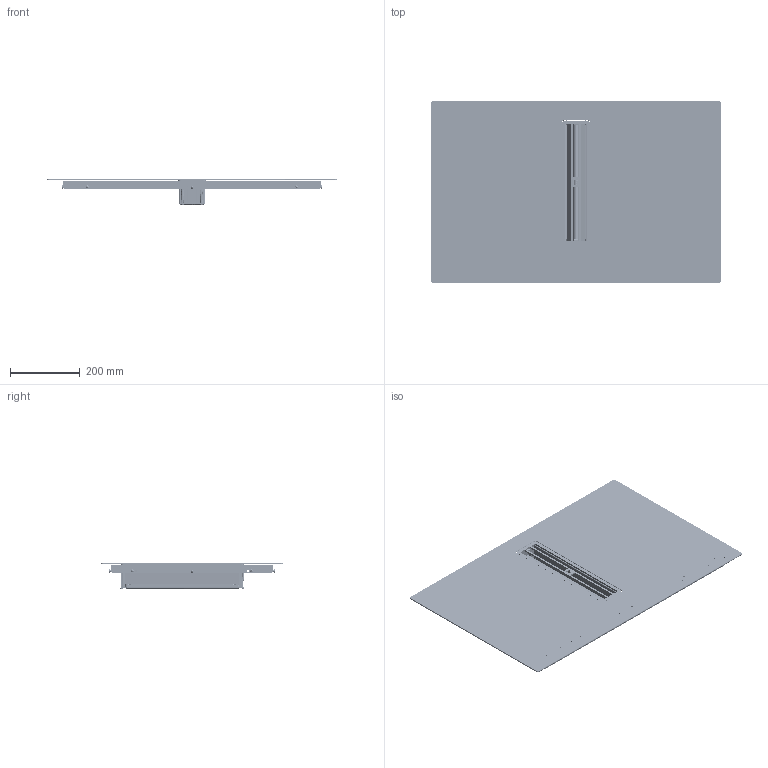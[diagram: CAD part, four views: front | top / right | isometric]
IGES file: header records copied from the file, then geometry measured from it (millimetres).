
Global section: file name: F:\_CONVERSIONE_CAD_2024_2025\_2024\03_3D kits new\Hob Extractors\340.0705.227_Maris 2gether Steel\3D001_Hob extractor_2gether_Steel.igs; native system: Rhinoceros ( Feb 13 2024 ); preprocessor: Trout Lake IGES 012 Feb 13 2024; date: 240322.100522; units: millimetre
Bounding box: 829.96 x 519.96 x 75.56 mm (x, y, z)
Surface area: 1336713.9 mm2 (no closed solid volume)
Topology: 0 solids, 0 shells, 33648 faces, 145282 edges, 145268 vertices
Faces by surface type: bspline 33648
